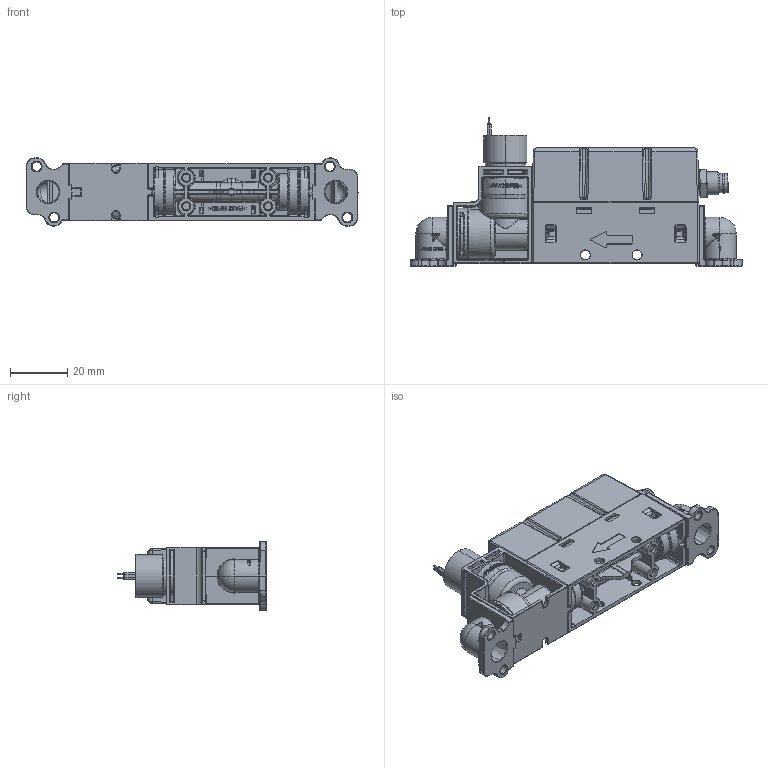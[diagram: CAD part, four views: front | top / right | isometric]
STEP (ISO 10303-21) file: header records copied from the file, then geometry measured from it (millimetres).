
FILE_DESCRIPTION (( 'STEP AP214' ), '1' );
FILE_NAME ('163710-00_Public Model SFC6000 Downmount.step', '2023-01-12T11:39:31', ( '' ), ( '' ), 'SwSTEP 2.0', 'SolidWorks 2021', '' );
FILE_SCHEMA (( 'AUTOMOTIVE_DESIGN' ));
Length unit declared in the file: millimetre
Products named in the file (1): 163710-00_Public Model SFC6000 Downmount
Bounding box: 115.5 x 51.83 x 23.7 mm (x, y, z)
Volume: 56765.2 mm3; surface area: 23458.1 mm2
Topology: 1 solids, 7 shells, 3036 faces, 7413 edges, 4347 vertices
Faces by surface type: bspline 897, cylinder 864, plane 707, sphere 283, cone 155, torus 130
Entity records: 153380 total; most frequent: CARTESIAN_POINT 58013, ORIENTED_EDGE 14562, DIRECTION 11082, EDGE_CURVE 7281, VERTEX_POINT 4344, AXIS2_PLACEMENT_3D 4238, EDGE_LOOP 3155, FACE_OUTER_BOUND 3036
